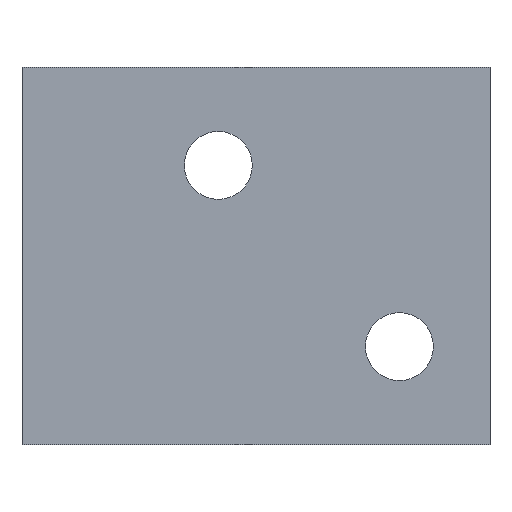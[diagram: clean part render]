
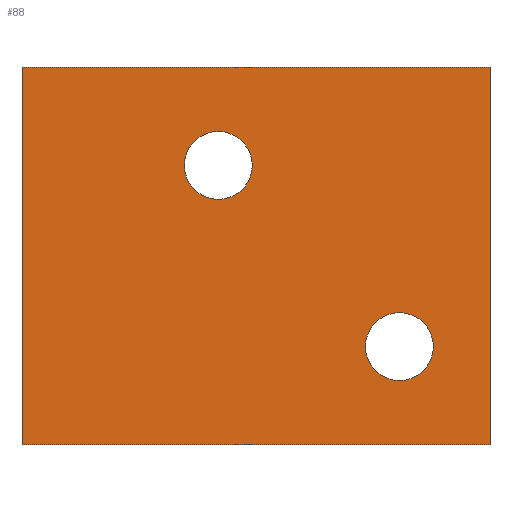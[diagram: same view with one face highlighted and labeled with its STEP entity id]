
A CAD part, left-side view. The second image highlights one B-rep face of the part: STEP entity #88.
In plain terms, the highlighted planar face has unit normal (-1, 0, 0).
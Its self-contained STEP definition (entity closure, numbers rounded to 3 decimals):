
#88 = ADVANCED_FACE( '', ( #122, #123, #124 ), #125, .T. );
#122 = FACE_BOUND( '', #162, .T. );
#123 = FACE_BOUND( '', #163, .T. );
#124 = FACE_OUTER_BOUND( '', #164, .T. );
#125 = PLANE( '', #165 );
#162 = EDGE_LOOP( '', ( #273, #274 ) );
#163 = EDGE_LOOP( '', ( #275, #276 ) );
#164 = EDGE_LOOP( '', ( #277, #278, #279, #280 ) );
#165 = AXIS2_PLACEMENT_3D( '', #281, #282, #283 );
#273 = ORIENTED_EDGE( '', *, *, #323, .T. );
#274 = ORIENTED_EDGE( '', *, *, #313, .T. );
#275 = ORIENTED_EDGE( '', *, *, #321, .T. );
#276 = ORIENTED_EDGE( '', *, *, #317, .T. );
#277 = ORIENTED_EDGE( '', *, *, #343, .F. );
#278 = ORIENTED_EDGE( '', *, *, #344, .F. );
#279 = ORIENTED_EDGE( '', *, *, #338, .T. );
#280 = ORIENTED_EDGE( '', *, *, #326, .F. );
#281 = CARTESIAN_POINT( '', ( 0., 0., -12.5 ) );
#282 = DIRECTION( '', ( -1., 0., 0. ) );
#283 = DIRECTION( '', ( 0., 0., -1. ) );
#313 = EDGE_CURVE( '', #365, #362, #366, .T. );
#317 = EDGE_CURVE( '', #373, #370, #374, .T. );
#321 = EDGE_CURVE( '', #370, #373, #379, .T. );
#323 = EDGE_CURVE( '', #362, #365, #381, .T. );
#326 = EDGE_CURVE( '', #385, #387, #388, .T. );
#338 = EDGE_CURVE( '', #403, #387, #406, .T. );
#343 = EDGE_CURVE( '', #412, #385, #413, .T. );
#344 = EDGE_CURVE( '', #403, #412, #414, .T. );
#362 = VERTEX_POINT( '', #436 );
#365 = VERTEX_POINT( '', #440 );
#366 = CIRCLE( '', #441, 2.25 );
#370 = VERTEX_POINT( '', #446 );
#373 = VERTEX_POINT( '', #450 );
#374 = CIRCLE( '', #451, 2.25 );
#379 = CIRCLE( '', #457, 2.25 );
#381 = CIRCLE( '', #459, 2.25 );
#385 = VERTEX_POINT( '', #464 );
#387 = VERTEX_POINT( '', #467 );
#388 = LINE( '', #468, #469 );
#403 = VERTEX_POINT( '', #491 );
#406 = LINE( '', #496, #497 );
#412 = VERTEX_POINT( '', #505 );
#413 = LINE( '', #506, #507 );
#414 = LINE( '', #508, #509 );
#436 = CARTESIAN_POINT( '', ( 0., -25., -8.25 ) );
#440 = CARTESIAN_POINT( '', ( 0., -25., -3.75 ) );
#441 = AXIS2_PLACEMENT_3D( '', #529, #530, #531 );
#446 = CARTESIAN_POINT( '', ( 0., -13., 3.75 ) );
#450 = CARTESIAN_POINT( '', ( 0., -13., 8.25 ) );
#451 = AXIS2_PLACEMENT_3D( '', #537, #538, #539 );
#457 = AXIS2_PLACEMENT_3D( '', #547, #548, #549 );
#459 = AXIS2_PLACEMENT_3D( '', #553, #554, #555 );
#464 = CARTESIAN_POINT( '', ( 0., -31., 12.5 ) );
#467 = CARTESIAN_POINT( '', ( 0., -31., -12.5 ) );
#468 = CARTESIAN_POINT( '', ( 0., -31., 12.5 ) );
#469 = VECTOR( '', #558, 1. );
#491 = CARTESIAN_POINT( '', ( 0., 0., -12.5 ) );
#496 = CARTESIAN_POINT( '', ( 0., 0., -12.5 ) );
#497 = VECTOR( '', #574, 1. );
#505 = CARTESIAN_POINT( '', ( 0., 0., 12.5 ) );
#506 = CARTESIAN_POINT( '', ( 0., 0., 12.5 ) );
#507 = VECTOR( '', #583, 1. );
#508 = CARTESIAN_POINT( '', ( 0., 0., -12.5 ) );
#509 = VECTOR( '', #584, 1. );
#529 = CARTESIAN_POINT( '', ( 0., -25., -6. ) );
#530 = DIRECTION( '', ( 1., 0., 0. ) );
#531 = DIRECTION( '', ( 0., 0., -1. ) );
#537 = CARTESIAN_POINT( '', ( 0., -13., 6. ) );
#538 = DIRECTION( '', ( 1., 0., 0. ) );
#539 = DIRECTION( '', ( 0., 0., -1. ) );
#547 = CARTESIAN_POINT( '', ( 0., -13., 6. ) );
#548 = DIRECTION( '', ( 1., 0., 0. ) );
#549 = DIRECTION( '', ( 0., 0., -1. ) );
#553 = CARTESIAN_POINT( '', ( 0., -25., -6. ) );
#554 = DIRECTION( '', ( 1., 0., 0. ) );
#555 = DIRECTION( '', ( 0., 0., -1. ) );
#558 = DIRECTION( '', ( 0., 0., -1. ) );
#574 = DIRECTION( '', ( 0., -1., 0. ) );
#583 = DIRECTION( '', ( 0., -1., 0. ) );
#584 = DIRECTION( '', ( 0., 0., 1. ) );
